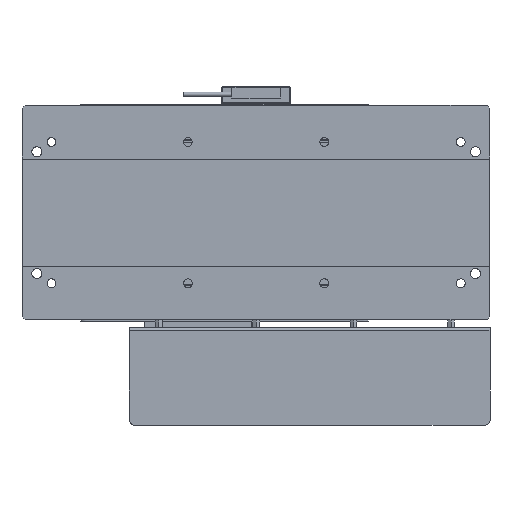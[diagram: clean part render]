
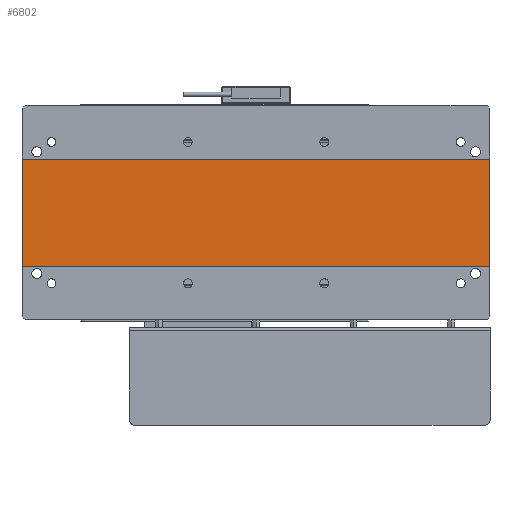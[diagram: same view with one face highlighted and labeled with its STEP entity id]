
A CAD part, front view. The second image highlights one B-rep face of the part: STEP entity #6802.
In plain terms, the highlighted planar face has unit normal (0, -1, 0).
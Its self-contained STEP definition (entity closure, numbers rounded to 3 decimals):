
#243 = DIRECTION ( 'NONE',  ( 0., 0., 1. ) ) ;
#255 = FACE_OUTER_BOUND ( 'NONE', #23303, .T. ) ;
#2785 = VERTEX_POINT ( 'NONE', #8107 ) ;
#2831 = VERTEX_POINT ( 'NONE', #18987 ) ;
#3719 = LINE ( 'NONE', #5243, #39028 ) ;
#3808 = EDGE_CURVE ( 'NONE', #14597, #12967, #20567, .T. ) ;
#5243 = CARTESIAN_POINT ( 'NONE',  ( -240., 1., 55. ) ) ;
#6308 = DIRECTION ( 'NONE',  ( 0., 0., 1. ) ) ;
#6600 = EDGE_CURVE ( 'NONE', #2831, #2785, #13232, .T. ) ;
#6802 = ADVANCED_FACE ( 'NONE', ( #255 ), #43476, .F. ) ;
#8107 = CARTESIAN_POINT ( 'NONE',  ( 240., 1., -55. ) ) ;
#8212 = AXIS2_PLACEMENT_3D ( 'NONE', #9453, #12934, #6308 ) ;
#8615 = DIRECTION ( 'NONE',  ( 1., 0., 0. ) ) ;
#9453 = CARTESIAN_POINT ( 'NONE',  ( -240., 1., 55. ) ) ;
#10328 = CARTESIAN_POINT ( 'NONE',  ( 240., 1., 55. ) ) ;
#11691 = DIRECTION ( 'NONE',  ( 0., 0., 1. ) ) ;
#12934 = DIRECTION ( 'NONE',  ( 0., 1., 0. ) ) ;
#12967 = VERTEX_POINT ( 'NONE', #36430 ) ;
#13232 = LINE ( 'NONE', #25326, #22808 ) ;
#14597 = VERTEX_POINT ( 'NONE', #21516 ) ;
#15395 = ORIENTED_EDGE ( 'NONE', *, *, #32329, .T. ) ;
#18271 = DIRECTION ( 'NONE',  ( 1., 0., 0. ) ) ;
#18987 = CARTESIAN_POINT ( 'NONE',  ( -240., 1., -55. ) ) ;
#20567 = LINE ( 'NONE', #39233, #21639 ) ;
#21516 = CARTESIAN_POINT ( 'NONE',  ( -240., 1., 55. ) ) ;
#21639 = VECTOR ( 'NONE', #8615, 1000. ) ;
#22661 = ORIENTED_EDGE ( 'NONE', *, *, #3808, .F. ) ;
#22808 = VECTOR ( 'NONE', #18271, 1000. ) ;
#23226 = VECTOR ( 'NONE', #243, 1000. ) ;
#23303 = EDGE_LOOP ( 'NONE', ( #15395, #22661, #41213, #35259 ) ) ;
#25326 = CARTESIAN_POINT ( 'NONE',  ( -240., 1., -55. ) ) ;
#32329 = EDGE_CURVE ( 'NONE', #2785, #12967, #37652, .T. ) ;
#35259 = ORIENTED_EDGE ( 'NONE', *, *, #6600, .T. ) ;
#36430 = CARTESIAN_POINT ( 'NONE',  ( 240., 1., 55. ) ) ;
#37608 = EDGE_CURVE ( 'NONE', #2831, #14597, #3719, .T. ) ;
#37652 = LINE ( 'NONE', #10328, #23226 ) ;
#39028 = VECTOR ( 'NONE', #11691, 1000. ) ;
#39233 = CARTESIAN_POINT ( 'NONE',  ( -240., 1., 55. ) ) ;
#41213 = ORIENTED_EDGE ( 'NONE', *, *, #37608, .F. ) ;
#43476 = PLANE ( 'NONE',  #8212 ) ;
